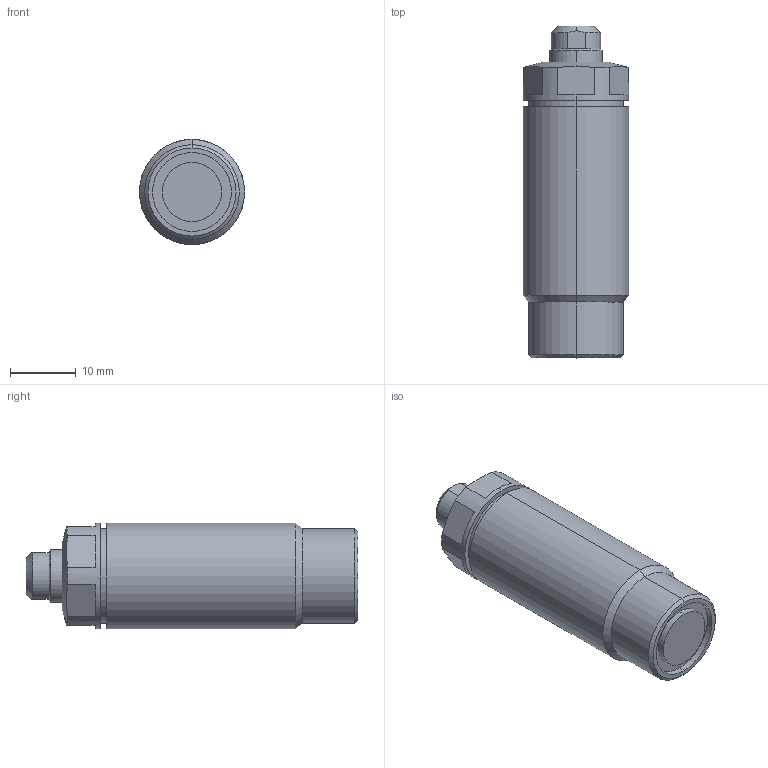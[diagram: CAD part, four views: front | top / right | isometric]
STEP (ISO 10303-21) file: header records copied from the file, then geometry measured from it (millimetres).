
FILE_DESCRIPTION (( 'STEP AP203' ), '1' );
FILE_NAME ('T03C-M160-L threaded pusher.STEP', '2022-07-09T17:33:37', ( '' ), ( '' ), 'SwSTEP 2.0', 'SolidWorks 2017', '' );
FILE_SCHEMA (( 'CONFIG_CONTROL_DESIGN' ));
Length unit declared in the file: millimetre
Products named in the file (3): T03C-M160-L part-2; T03C-M160-L threaded pusher; T03C-M160-L part-1
Assembly tree (2 placements, depth 2):
  T03C-M160-L threaded pusher
    T03C-M160-L part-1
    T03C-M160-L part-2
Bounding box: 16 x 50.5 x 16 mm (x, y, z)
Volume: 10540.7 mm3; surface area: 4029.5 mm2
Topology: 2 solids, 2 shells, 233 faces, 610 edges, 401 vertices
Faces by surface type: plane 120, bspline 80, cylinder 18, cone 15
Entity records: 11577 total; most frequent: CARTESIAN_POINT 6188, ORIENTED_EDGE 1216, DIRECTION 751, EDGE_CURVE 608, VERTEX_POINT 401, VECTOR 313, LINE 313, EDGE_LOOP 255
